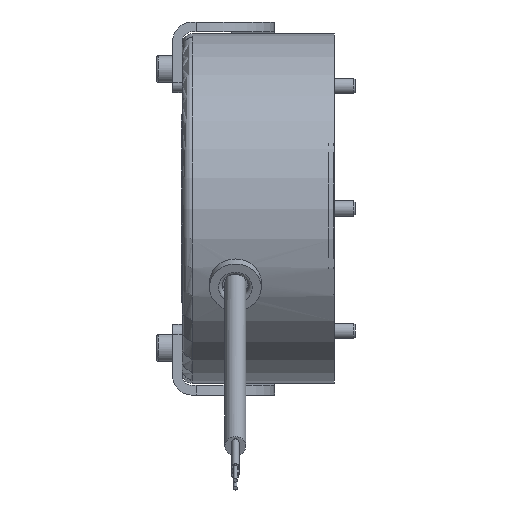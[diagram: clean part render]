
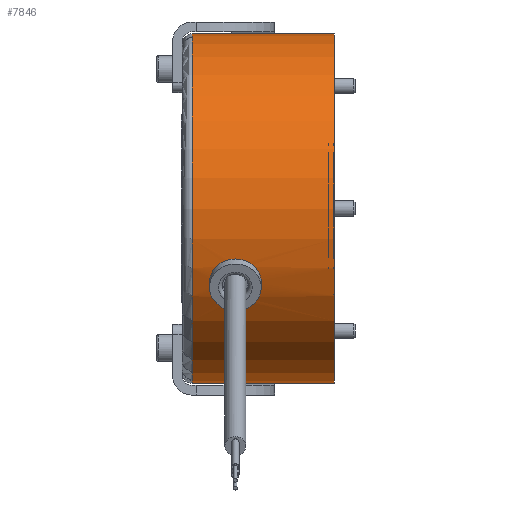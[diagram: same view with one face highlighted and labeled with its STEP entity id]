
A CAD part, front view. The second image highlights one B-rep face of the part: STEP entity #7846.
In plain terms, the highlighted cylindrical face has radius 44.5 mm (diameter 89 mm), a full revolution.
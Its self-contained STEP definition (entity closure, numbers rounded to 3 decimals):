
#99=B_SPLINE_CURVE_WITH_KNOTS('',3,(#12146,#12147,#12148,#12149,#12150,
#12151,#12152,#12153,#12154,#12155,#12156,#12157,#12158,#12159,#12160,#12161,
#12162,#12163),.UNSPECIFIED.,.F.,.F.,(4,2,2,2,2,2,2,2,4),(0.767,
0.959,1.15,1.342,1.533,1.725,
1.917,2.108,2.3),.UNSPECIFIED.);
#100=B_SPLINE_CURVE_WITH_KNOTS('',3,(#12166,#12167,#12168,#12169,#12170,
#12171,#12172,#12173,#12174,#12175,#12176,#12177,#12178,#12179,#12180,#12181,
#12182,#12183,#12184),.UNSPECIFIED.,.F.,.F.,(4,2,2,2,3,2,2,2,4),(2.3,
2.492,2.684,2.875,3.067,3.258,
3.449,3.642,3.834),.UNSPECIFIED.);
#248=CYLINDRICAL_SURFACE('',#8387,44.5);
#446=FACE_BOUND('',#1543,.T.);
#618=CIRCLE('',#8388,44.5);
#619=CIRCLE('',#8389,44.5);
#620=CIRCLE('',#8390,44.5);
#621=CIRCLE('',#8391,44.5);
#622=CIRCLE('',#8392,44.5);
#1107=FACE_OUTER_BOUND('',#1542,.T.);
#1542=EDGE_LOOP('',(#5347,#5348,#5349,#5350,#5351,#5352,#5353));
#1543=EDGE_LOOP('',(#5354,#5355,#5356,#5357,#5358,#5359));
#2058=LINE('',#12273,#2501);
#2059=LINE('',#12279,#2502);
#2060=LINE('',#12280,#2503);
#2501=VECTOR('',#9578,44.5);
#2502=VECTOR('',#9585,10.);
#2503=VECTOR('',#9586,10.);
#3071=VERTEX_POINT('',#12037);
#3072=VERTEX_POINT('',#12038);
#3073=VERTEX_POINT('',#12040);
#3074=VERTEX_POINT('',#12042);
#3093=VERTEX_POINT('',#12268);
#3094=VERTEX_POINT('',#12269);
#3095=VERTEX_POINT('',#12272);
#3096=VERTEX_POINT('',#12274);
#3097=VERTEX_POINT('',#12276);
#3940=EDGE_CURVE('',#3072,#3073,#99,.T.);
#3942=EDGE_CURVE('',#3073,#3072,#100,.T.);
#3957=EDGE_CURVE('',#3093,#3094,#618,.T.);
#3958=EDGE_CURVE('',#3094,#3093,#619,.T.);
#3959=EDGE_CURVE('',#3094,#3095,#2058,.T.);
#3960=EDGE_CURVE('',#3096,#3095,#620,.T.);
#3961=EDGE_CURVE('',#3097,#3096,#621,.T.);
#3962=EDGE_CURVE('',#3095,#3097,#622,.T.);
#3963=EDGE_CURVE('',#3073,#3074,#2059,.T.);
#3964=EDGE_CURVE('',#3071,#3072,#2060,.T.);
#5347=ORIENTED_EDGE('',*,*,#3957,.F.);
#5348=ORIENTED_EDGE('',*,*,#3958,.F.);
#5349=ORIENTED_EDGE('',*,*,#3959,.T.);
#5350=ORIENTED_EDGE('',*,*,#3960,.F.);
#5351=ORIENTED_EDGE('',*,*,#3961,.F.);
#5352=ORIENTED_EDGE('',*,*,#3962,.F.);
#5353=ORIENTED_EDGE('',*,*,#3959,.F.);
#5354=ORIENTED_EDGE('',*,*,#3963,.T.);
#5355=ORIENTED_EDGE('',*,*,#3963,.F.);
#5356=ORIENTED_EDGE('',*,*,#3942,.T.);
#5357=ORIENTED_EDGE('',*,*,#3964,.F.);
#5358=ORIENTED_EDGE('',*,*,#3964,.T.);
#5359=ORIENTED_EDGE('',*,*,#3940,.T.);
#7846=ADVANCED_FACE('',(#1107,#446),#248,.T.);
#8387=AXIS2_PLACEMENT_3D('',#12267,#9572,#9573);
#8388=AXIS2_PLACEMENT_3D('',#12270,#9574,#9575);
#8389=AXIS2_PLACEMENT_3D('',#12271,#9576,#9577);
#8390=AXIS2_PLACEMENT_3D('',#12275,#9579,#9580);
#8391=AXIS2_PLACEMENT_3D('',#12277,#9581,#9582);
#8392=AXIS2_PLACEMENT_3D('',#12278,#9583,#9584);
#9572=DIRECTION('center_axis',(1.,0.,0.));
#9573=DIRECTION('ref_axis',(0.,1.,0.));
#9574=DIRECTION('center_axis',(1.,0.,0.));
#9575=DIRECTION('ref_axis',(0.,1.,0.));
#9576=DIRECTION('center_axis',(1.,0.,0.));
#9577=DIRECTION('ref_axis',(0.,1.,0.));
#9578=DIRECTION('',(-1.,0.,0.));
#9579=DIRECTION('center_axis',(-1.,0.,0.));
#9580=DIRECTION('ref_axis',(0.,-1.,0.));
#9581=DIRECTION('center_axis',(-1.,0.,0.));
#9582=DIRECTION('ref_axis',(0.,-1.,0.));
#9583=DIRECTION('center_axis',(-1.,0.,0.));
#9584=DIRECTION('ref_axis',(0.,-1.,0.));
#9585=DIRECTION('',(1.,0.,0.));
#9586=DIRECTION('',(1.,0.,0.));
#12037=CARTESIAN_POINT('',(-31.8,-40.331,-18.807));
#12038=CARTESIAN_POINT('',(-30.3,-40.331,-18.807));
#12040=CARTESIAN_POINT('',(-20.1,-40.331,-18.807));
#12042=CARTESIAN_POINT('',(-18.6,-40.331,-18.807));
#12146=CARTESIAN_POINT('Ctrl Pts',(-30.3,-40.331,-18.807));
#12147=CARTESIAN_POINT('Ctrl Pts',(-30.3,-40.601,-18.227));
#12148=CARTESIAN_POINT('Ctrl Pts',(-30.171,-40.875,-17.603));
#12149=CARTESIAN_POINT('Ctrl Pts',(-29.647,-41.354,-16.446));
#12150=CARTESIAN_POINT('Ctrl Pts',(-29.253,-41.56,
-15.914));
#12151=CARTESIAN_POINT('Ctrl Pts',(-28.346,-41.873,
-15.069));
#12152=CARTESIAN_POINT('Ctrl Pts',(-27.773,-42.002,
-14.701));
#12153=CARTESIAN_POINT('Ctrl Pts',(-26.52,-42.17,
-14.212));
#12154=CARTESIAN_POINT('Ctrl Pts',(-25.838,-42.21,
-14.091));
#12155=CARTESIAN_POINT('Ctrl Pts',(-24.562,-42.21,
-14.091));
#12156=CARTESIAN_POINT('Ctrl Pts',(-23.88,-42.17,
-14.212));
#12157=CARTESIAN_POINT('Ctrl Pts',(-22.627,-42.002,
-14.701));
#12158=CARTESIAN_POINT('Ctrl Pts',(-22.054,-41.873,
-15.069));
#12159=CARTESIAN_POINT('Ctrl Pts',(-21.147,-41.56,
-15.914));
#12160=CARTESIAN_POINT('Ctrl Pts',(-20.753,-41.354,-16.446));
#12161=CARTESIAN_POINT('Ctrl Pts',(-20.229,-40.875,-17.603));
#12162=CARTESIAN_POINT('Ctrl Pts',(-20.1,-40.601,-18.227));
#12163=CARTESIAN_POINT('Ctrl Pts',(-20.1,-40.331,-18.807));
#12166=CARTESIAN_POINT('Ctrl Pts',(-20.1,-40.331,-18.807));
#12167=CARTESIAN_POINT('Ctrl Pts',(-20.1,-40.06,-19.386));
#12168=CARTESIAN_POINT('Ctrl Pts',(-20.229,-39.759,-19.997));
#12169=CARTESIAN_POINT('Ctrl Pts',(-20.753,-39.181,
-21.108));
#12170=CARTESIAN_POINT('Ctrl Pts',(-21.147,-38.905,
-21.608));
#12171=CARTESIAN_POINT('Ctrl Pts',(-22.054,-38.459,
-22.39));
#12172=CARTESIAN_POINT('Ctrl Pts',(-22.627,-38.26,
-22.726));
#12173=CARTESIAN_POINT('Ctrl Pts',(-23.88,-37.994,
-23.169));
#12174=CARTESIAN_POINT('Ctrl Pts',(-24.562,-37.927,
-23.277));
#12175=CARTESIAN_POINT('Ctrl Pts',(-25.2,-37.927,-23.277));
#12176=CARTESIAN_POINT('Ctrl Pts',(-25.837,-37.927,
-23.277));
#12177=CARTESIAN_POINT('Ctrl Pts',(-26.517,-37.993,
-23.169));
#12178=CARTESIAN_POINT('Ctrl Pts',(-27.77,-38.259,
-22.727));
#12179=CARTESIAN_POINT('Ctrl Pts',(-28.342,-38.458,
-22.393));
#12180=CARTESIAN_POINT('Ctrl Pts',(-29.25,-38.903,
-21.611));
#12181=CARTESIAN_POINT('Ctrl Pts',(-29.645,-39.179,
-21.111));
#12182=CARTESIAN_POINT('Ctrl Pts',(-30.17,-39.758,-19.999));
#12183=CARTESIAN_POINT('Ctrl Pts',(-30.3,-40.06,-19.387));
#12184=CARTESIAN_POINT('Ctrl Pts',(-30.3,-40.331,-18.807));
#12267=CARTESIAN_POINT('Origin',(-19.35,0.,0.));
#12268=CARTESIAN_POINT('',(0.,44.5,0.));
#12269=CARTESIAN_POINT('',(0.,-44.5,0.));
#12270=CARTESIAN_POINT('Origin',(0.,0.,0.));
#12271=CARTESIAN_POINT('Origin',(0.,0.,0.));
#12272=CARTESIAN_POINT('',(-36.2,-44.5,0.));
#12273=CARTESIAN_POINT('',(-19.35,-44.5,0.));
#12274=CARTESIAN_POINT('',(-36.2,44.5,0.));
#12275=CARTESIAN_POINT('Origin',(-36.2,0.,0.));
#12276=CARTESIAN_POINT('',(-36.2,0.,44.5));
#12277=CARTESIAN_POINT('Origin',(-36.2,0.,0.));
#12278=CARTESIAN_POINT('Origin',(-36.2,0.,0.));
#12279=CARTESIAN_POINT('',(-19.35,-40.331,-18.807));
#12280=CARTESIAN_POINT('',(-19.35,-40.331,-18.807));
